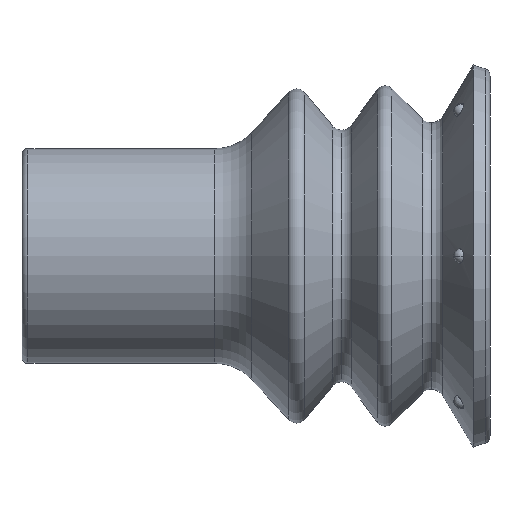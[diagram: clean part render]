
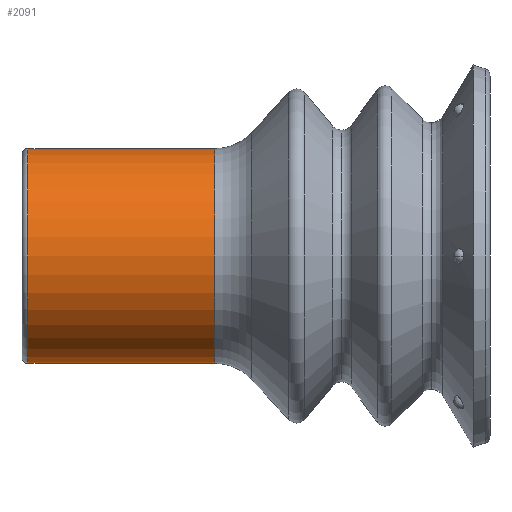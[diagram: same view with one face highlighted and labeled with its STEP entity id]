
A CAD part, left-side view. The second image highlights one B-rep face of the part: STEP entity #2091.
In plain terms, the highlighted cylindrical face has radius 4.5 mm (diameter 9 mm), a partial arc.
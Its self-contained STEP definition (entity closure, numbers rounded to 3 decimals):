
#19 = EDGE_CURVE ( 'NONE', #993, #735, #148, .T. ) ;
#40 = ORIENTED_EDGE ( 'NONE', *, *, #2016, .F. ) ;
#61 = AXIS2_PLACEMENT_3D ( 'NONE', #776, #947, #2126 ) ;
#72 = EDGE_CURVE ( 'NONE', #1504, #716, #1016, .T. ) ;
#143 = CARTESIAN_POINT ( 'NONE',  ( 0., 0., 4.5 ) ) ;
#148 = CIRCLE ( 'NONE', #326, 4.5 ) ;
#207 = ORIENTED_EDGE ( 'NONE', *, *, #19, .F. ) ;
#229 = CARTESIAN_POINT ( 'NONE',  ( 0., -0.25, -4.5 ) ) ;
#326 = AXIS2_PLACEMENT_3D ( 'NONE', #351, #1557, #1736 ) ;
#351 = CARTESIAN_POINT ( 'NONE',  ( 0., -0.25, 0. ) ) ;
#381 = DIRECTION ( 'NONE',  ( 0., 0., 1. ) ) ;
#440 = LINE ( 'NONE', #143, #1958 ) ;
#546 = LINE ( 'NONE', #746, #984 ) ;
#573 = CARTESIAN_POINT ( 'NONE',  ( 0., -8.076, 4.5 ) ) ;
#647 = DIRECTION ( 'NONE',  ( 0., 1., 0. ) ) ;
#716 = VERTEX_POINT ( 'NONE', #573 ) ;
#735 = VERTEX_POINT ( 'NONE', #1105 ) ;
#746 = CARTESIAN_POINT ( 'NONE',  ( 0., 0., -4.5 ) ) ;
#776 = CARTESIAN_POINT ( 'NONE',  ( 0., -8.076, 0. ) ) ;
#947 = DIRECTION ( 'NONE',  ( 0., 1., 0. ) ) ;
#984 = VECTOR ( 'NONE', #1941, 1000. ) ;
#993 = VERTEX_POINT ( 'NONE', #229 ) ;
#1007 = CARTESIAN_POINT ( 'NONE',  ( 0., -8.076, -4.5 ) ) ;
#1016 = CIRCLE ( 'NONE', #61, 4.5 ) ;
#1105 = CARTESIAN_POINT ( 'NONE',  ( 0., -0.25, 4.5 ) ) ;
#1239 = DIRECTION ( 'NONE',  ( 0., 1., 0. ) ) ;
#1504 = VERTEX_POINT ( 'NONE', #1007 ) ;
#1513 = ORIENTED_EDGE ( 'NONE', *, *, #72, .T. ) ;
#1551 = EDGE_CURVE ( 'NONE', #716, #735, #440, .T. ) ;
#1557 = DIRECTION ( 'NONE',  ( 0., 1., 0. ) ) ;
#1563 = ORIENTED_EDGE ( 'NONE', *, *, #1551, .T. ) ;
#1736 = DIRECTION ( 'NONE',  ( 0., 0., 1. ) ) ;
#1871 = AXIS2_PLACEMENT_3D ( 'NONE', #1935, #1239, #381 ) ;
#1935 = CARTESIAN_POINT ( 'NONE',  ( 0., 0., 0. ) ) ;
#1941 = DIRECTION ( 'NONE',  ( 0., 1., 0. ) ) ;
#1958 = VECTOR ( 'NONE', #647, 1000. ) ;
#2016 = EDGE_CURVE ( 'NONE', #1504, #993, #546, .T. ) ;
#2057 = CYLINDRICAL_SURFACE ( 'NONE', #1871, 4.5 ) ;
#2091 = ADVANCED_FACE ( 'NONE', ( #2132 ), #2057, .T. ) ;
#2126 = DIRECTION ( 'NONE',  ( 0., 0., 1. ) ) ;
#2132 = FACE_OUTER_BOUND ( 'NONE', #2223, .T. ) ;
#2223 = EDGE_LOOP ( 'NONE', ( #40, #1513, #1563, #207 ) ) ;
